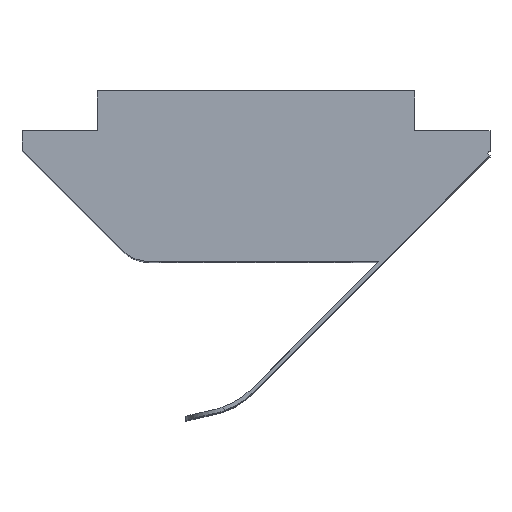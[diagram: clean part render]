
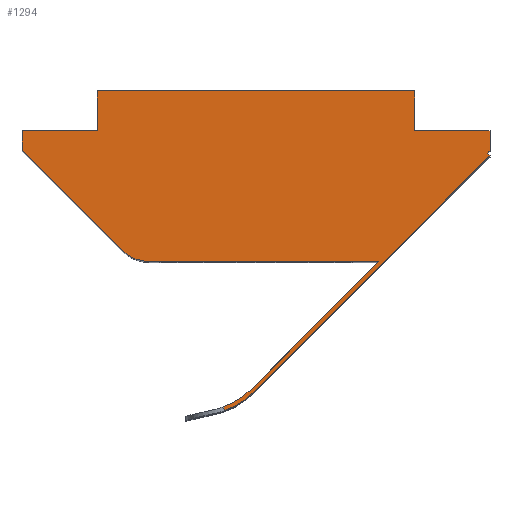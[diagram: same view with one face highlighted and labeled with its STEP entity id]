
A CAD part, top view. The second image highlights one B-rep face of the part: STEP entity #1294.
In plain terms, the highlighted planar face has unit normal (0, 0, 1).
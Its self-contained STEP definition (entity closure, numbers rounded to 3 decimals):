
#118=CARTESIAN_POINT('',(-4.,4.3,16.0));
#119=VERTEX_POINT('',#118);
#120=CARTESIAN_POINT('',(4.,4.3,16.0));
#121=VERTEX_POINT('',#120);
#122=CARTESIAN_POINT('',(-4.,4.3,16.0));
#123=DIRECTION('',(1.0,0.0,0.0));
#124=VECTOR('',#123,8.);
#125=LINE('',#122,#124);
#126=EDGE_CURVE('',#119,#121,#125,.T.);
#435=CARTESIAN_POINT('',(-0.795,-3.763,16.0));
#436=VERTEX_POINT('',#435);
#444=CARTESIAN_POINT('',(-0.817,-3.665,16.0));
#445=VERTEX_POINT('',#444);
#446=CARTESIAN_POINT('',(-0.795,-3.763,16.0));
#447=DIRECTION('',(-0.224,0.975,0.0));
#448=VECTOR('',#447,0.101);
#449=LINE('',#446,#448);
#450=EDGE_CURVE('',#436,#445,#449,.T.);
#492=CARTESIAN_POINT('',(-0.052,-3.293,16.0));
#493=VERTEX_POINT('',#492);
#500=CARTESIAN_POINT('',(-1.466,-1.879,16.0));
#501=DIRECTION('',(0.0,0.0,-1.));
#502=DIRECTION('',(0.484,-0.875,0.0));
#503=AXIS2_PLACEMENT_3D('',#500,#501,#502);
#504=CIRCLE('',#503,2.);
#505=EDGE_CURVE('',#493,#436,#504,.T.);
#728=CARTESIAN_POINT('',(5.9,2.659,16.0));
#729=VERTEX_POINT('',#728);
#736=CARTESIAN_POINT('',(5.9,2.659,16.0));
#737=DIRECTION('',(-0.707,-0.707,0.0));
#738=VECTOR('',#737,8.417);
#739=LINE('',#736,#738);
#740=EDGE_CURVE('',#729,#493,#739,.T.);
#798=CARTESIAN_POINT('',(-0.123,-3.223,16.0));
#799=VERTEX_POINT('',#798);
#806=CARTESIAN_POINT('',(3.1,0.0,16.0));
#807=VERTEX_POINT('',#806);
#808=CARTESIAN_POINT('',(-0.123,-3.223,16.0));
#809=DIRECTION('',(0.707,0.707,0.0));
#810=VECTOR('',#809,4.558);
#811=LINE('',#808,#810);
#812=EDGE_CURVE('',#799,#807,#811,.T.);
#860=CARTESIAN_POINT('',(-1.466,-1.879,16.0));
#861=DIRECTION('',(0.0,0.0,1.0));
#862=DIRECTION('',(0.484,-0.875,0.0));
#863=AXIS2_PLACEMENT_3D('',#860,#861,#862);
#864=CIRCLE('',#863,1.9);
#865=EDGE_CURVE('',#445,#799,#864,.T.);
#899=CARTESIAN_POINT('',(-2.686,0.0,16.0));
#900=VERTEX_POINT('',#899);
#901=CARTESIAN_POINT('',(-3.393,0.293,16.0));
#902=VERTEX_POINT('',#901);
#903=CARTESIAN_POINT('',(-2.686,1.0,16.0));
#904=DIRECTION('',(0.0,0.0,-1.));
#905=DIRECTION('',(-0.383,-0.924,0.0));
#906=AXIS2_PLACEMENT_3D('',#903,#904,#905);
#907=CIRCLE('',#906,1.0);
#908=EDGE_CURVE('',#900,#902,#907,.T.);
#953=CARTESIAN_POINT('',(3.1,0.0,16.0));
#954=DIRECTION('',(-1.0,0.0,0.0));
#955=VECTOR('',#954,5.786);
#956=LINE('',#953,#955);
#957=EDGE_CURVE('',#807,#900,#956,.T.);
#1074=CARTESIAN_POINT('',(5.829,2.729,16.0));
#1075=VERTEX_POINT('',#1074);
#1082=CARTESIAN_POINT('',(5.829,2.729,16.0));
#1083=DIRECTION('',(0.707,-0.707,0.0));
#1084=VECTOR('',#1083,0.1);
#1085=LINE('',#1082,#1084);
#1086=EDGE_CURVE('',#1075,#729,#1085,.T.);
#1099=CARTESIAN_POINT('',(5.9,2.8,16.0));
#1100=VERTEX_POINT('',#1099);
#1107=CARTESIAN_POINT('',(5.9,2.8,16.0));
#1108=DIRECTION('',(-0.707,-0.707,0.0));
#1109=VECTOR('',#1108,0.1);
#1110=LINE('',#1107,#1109);
#1111=EDGE_CURVE('',#1100,#1075,#1110,.T.);
#1121=CARTESIAN_POINT('',(4.,3.3,16.0));
#1122=VERTEX_POINT('',#1121);
#1123=CARTESIAN_POINT('',(4.,4.3,16.0));
#1124=DIRECTION('',(0.0,-1.0,0.0));
#1125=VECTOR('',#1124,1.);
#1126=LINE('',#1123,#1125);
#1127=EDGE_CURVE('',#121,#1122,#1126,.T.);
#1145=CARTESIAN_POINT('',(5.9,3.3,16.0));
#1146=VERTEX_POINT('',#1145);
#1147=CARTESIAN_POINT('',(4.,3.3,16.0));
#1148=DIRECTION('',(1.0,0.0,0.0));
#1149=VECTOR('',#1148,1.9);
#1150=LINE('',#1147,#1149);
#1151=EDGE_CURVE('',#1122,#1146,#1150,.T.);
#1169=CARTESIAN_POINT('',(5.9,3.3,16.0));
#1170=DIRECTION('',(0.0,-1.0,0.0));
#1171=VECTOR('',#1170,0.5);
#1172=LINE('',#1169,#1171);
#1173=EDGE_CURVE('',#1146,#1100,#1172,.T.);
#1187=CARTESIAN_POINT('',(-5.9,2.8,16.0));
#1188=VERTEX_POINT('',#1187);
#1189=CARTESIAN_POINT('',(-3.393,0.293,16.0));
#1190=DIRECTION('',(-0.707,0.707,0.0));
#1191=VECTOR('',#1190,3.546);
#1192=LINE('',#1189,#1191);
#1193=EDGE_CURVE('',#902,#1188,#1192,.T.);
#1210=CARTESIAN_POINT('',(-5.9,3.3,16.0));
#1211=VERTEX_POINT('',#1210);
#1212=CARTESIAN_POINT('',(-5.9,2.8,16.0));
#1213=DIRECTION('',(0.0,1.0,0.0));
#1214=VECTOR('',#1213,0.5);
#1215=LINE('',#1212,#1214);
#1216=EDGE_CURVE('',#1188,#1211,#1215,.T.);
#1234=CARTESIAN_POINT('',(-4.,3.3,16.0));
#1235=VERTEX_POINT('',#1234);
#1236=CARTESIAN_POINT('',(-5.9,3.3,16.0));
#1237=DIRECTION('',(1.0,0.0,0.0));
#1238=VECTOR('',#1237,1.9);
#1239=LINE('',#1236,#1238);
#1240=EDGE_CURVE('',#1211,#1235,#1239,.T.);
#1258=CARTESIAN_POINT('',(-4.,3.3,16.0));
#1259=DIRECTION('',(0.0,1.0,0.0));
#1260=VECTOR('',#1259,1.);
#1261=LINE('',#1258,#1260);
#1262=EDGE_CURVE('',#1235,#119,#1261,.T.);
#1270=CARTESIAN_POINT('',(0.0,2.375,16.0));
#1271=DIRECTION('',(0.0,0.0,1.0));
#1272=DIRECTION('',(1.0,0.0,0.0));
#1273=AXIS2_PLACEMENT_3D('',#1270,#1271,#1272);
#1274=PLANE('',#1273);
#1275=ORIENTED_EDGE('',*,*,#450,.F.);
#1276=ORIENTED_EDGE('',*,*,#505,.F.);
#1277=ORIENTED_EDGE('',*,*,#740,.F.);
#1278=ORIENTED_EDGE('',*,*,#1086,.F.);
#1279=ORIENTED_EDGE('',*,*,#1111,.F.);
#1280=ORIENTED_EDGE('',*,*,#1173,.F.);
#1281=ORIENTED_EDGE('',*,*,#1151,.F.);
#1282=ORIENTED_EDGE('',*,*,#1127,.F.);
#1283=ORIENTED_EDGE('',*,*,#126,.F.);
#1284=ORIENTED_EDGE('',*,*,#1262,.F.);
#1285=ORIENTED_EDGE('',*,*,#1240,.F.);
#1286=ORIENTED_EDGE('',*,*,#1216,.F.);
#1287=ORIENTED_EDGE('',*,*,#1193,.F.);
#1288=ORIENTED_EDGE('',*,*,#908,.F.);
#1289=ORIENTED_EDGE('',*,*,#957,.F.);
#1290=ORIENTED_EDGE('',*,*,#812,.F.);
#1291=ORIENTED_EDGE('',*,*,#865,.F.);
#1292=EDGE_LOOP('',(#1275,#1276,#1277,#1278,#1279,#1280,#1281,#1282,#1283,#1284,#1285,#1286,#1287,#1288,#1289,#1290,#1291));
#1293=FACE_OUTER_BOUND('',#1292,.T.);
#1294=ADVANCED_FACE('',(#1293),#1274,.T.);
